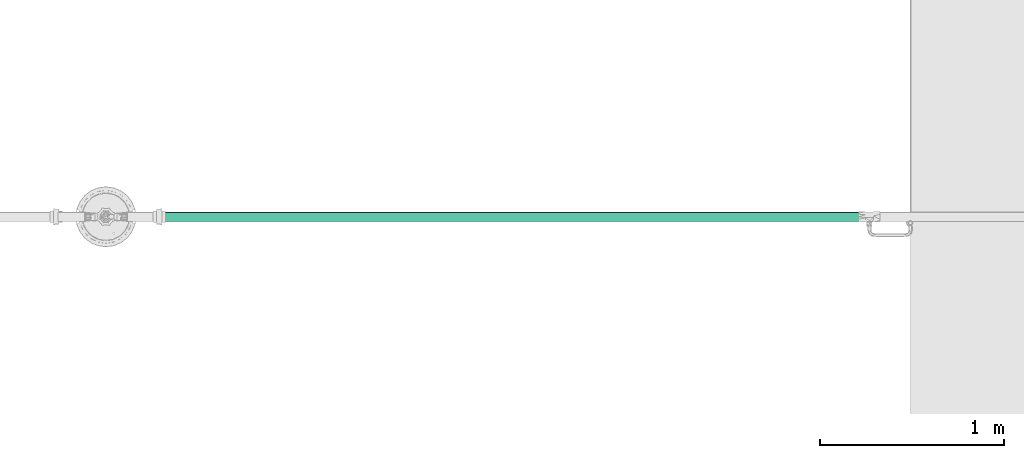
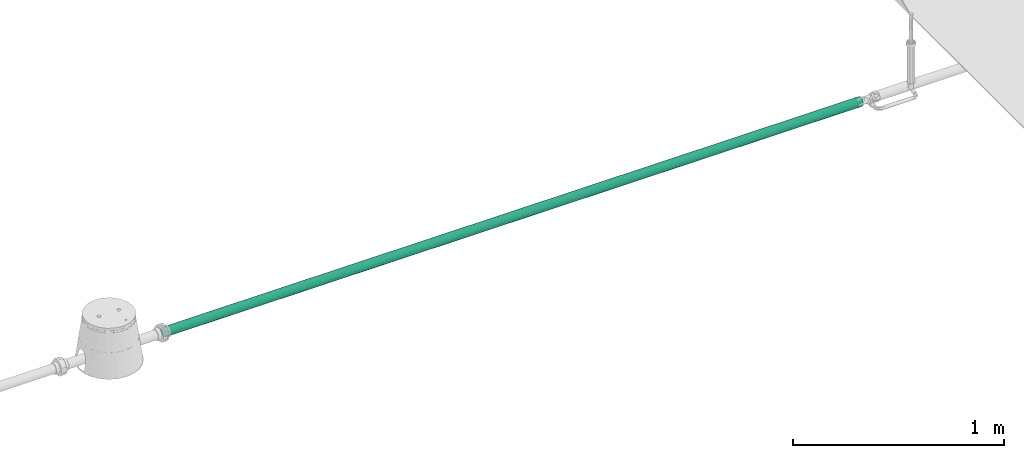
# One storey, part 4 of 166: 1 flow segment.
"""IFC2X3 building model written with IfcOpenShell, lengths in metres."""

from ifc_helpers import new_model, entity, si_unit, converted_unit, direction, frame, frame_2d, origin, place, context, subcontext, project, spatial, circle, extrude, type_object, element, save


model = new_model("IFC2X3")

# Units and contexts
model_context = context("Model", 3, precision=1e-05, world=origin(), true_north=direction((6.123233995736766e-17, 1.0)))
body_context = subcontext(model_context, "Body", "Model", "MODEL_VIEW")
ifc_project = project(units=[si_unit("LENGTHUNIT", "METRE"), converted_unit("PLANEANGLEUNIT", "DEGREE", entity("IfcPlaneAngleMeasure", 0.017453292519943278), si_unit("PLANEANGLEUNIT", "RADIAN"), dimensions=[0, 0, 0, 0, 0, 0, 0]), si_unit("AREAUNIT", "SQUARE_METRE")], contexts=[model_context])

# Site, building, storey
site_placement = place(None, origin())
site = spatial("IfcSite", under=ifc_project, at=site_placement, Name="Default", CompositionType="ELEMENT")
building_placement = place(site_placement, origin())
building = spatial("IfcBuilding", under=site, at=building_placement, Name="CASA DE ACOLHIDA PARA IDOSOS", CompositionType="ELEMENT")
storey_placement = place(building_placement, frame((0.0, 0.0, -1.7499999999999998)))
storey = spatial("IfcBuildingStorey", under=building, at=storey_placement, Name="IMPLANTAÇÃO DRENAGEM", CompositionType="ELEMENT", Elevation=-1.7499999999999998)

# Flow segment
pipe_segment_type = type_object("IfcPipeSegmentType", Name="Tipos de tubos:AF_Tubo Marrom Soldável", PredefinedType="NOTDEFINED")
flow_segment_placement = place(storey_placement, origin())
element("IfcFlowSegment", 1, at=flow_segment_placement, inside=storey, type_object=pipe_segment_type, Name="Tipos de tubos:AF_Tubo Marrom Soldável", ObjectType="Tipos de tubos:AF_Tubo Marrom Soldável", context=body_context, shape_type="SweptSolid", body=[
    extrude(circle(Radius=0.025, at=frame_2d((0.0, -2.707167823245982e-16), x_axis=(1.0, 0.0))), frame((-48.84234161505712, -3.5450579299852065, -0.2000000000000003), z_axis=(1.0, 0.0, 0.0), x_axis=(0.0, -1.0, 0.0)), (0.0, 0.0, 1.0), 3.8187927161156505),
])

save(model, "model.ifc")
